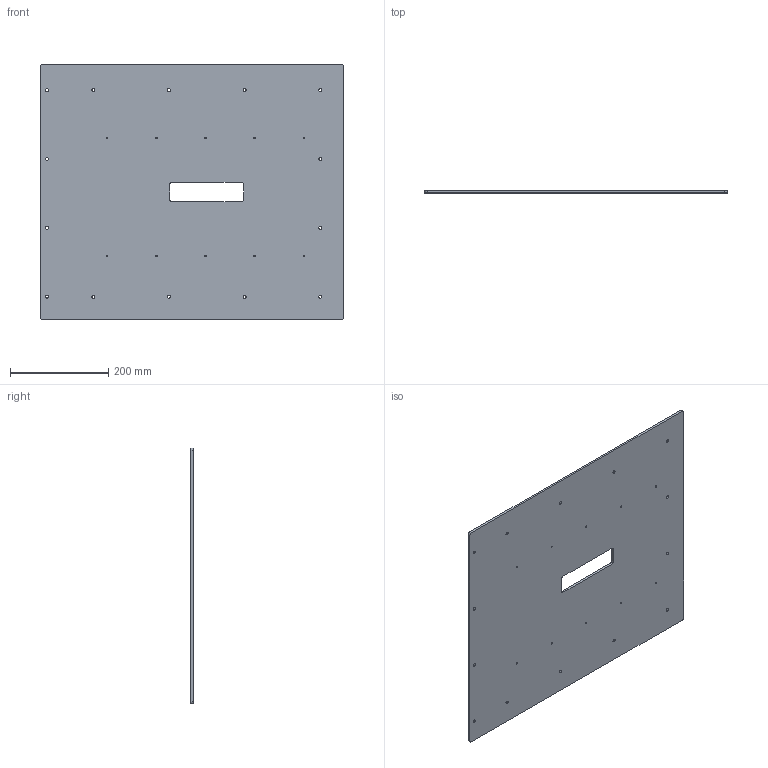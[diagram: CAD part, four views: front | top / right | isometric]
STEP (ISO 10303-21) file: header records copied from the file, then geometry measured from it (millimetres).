
FILE_DESCRIPTION(/* description */ (''),/* implementation_level */ '2;1');
FILE_NAME(/* name */ 'Electric Panel_Side Module.step',/* time_stamp */ '2026-05-13T17:27:39-07:00',/* author */ (''),/* organization */ (''),/* preprocessor_version */ 'ST-DEVELOPER v20.1',/* originating_system */ 'Autodesk Translation Framework v15.8.0.0',/* authorisation */ '');
FILE_SCHEMA (('AUTOMOTIVE_DESIGN { 1 0 10303 214 3 1 1 }'));
Length unit declared in the file: millimetre
Products named in the file (1): Electric Panel_Side Module
Bounding box: 615 x 4.76 x 520 mm (x, y, z)
Volume: 1492172 mm3; surface area: 640928.1 mm2
Topology: 1 solids, 1 shells, 42 faces, 120 edges, 80 vertices
Faces by surface type: cylinder 32, plane 10
Full cylindrical faces by diameter (mm): 3.332 x10, 6 x14
Entity records: 1541 total; most frequent: DIRECTION 270, CARTESIAN_POINT 243, ORIENTED_EDGE 240, EDGE_CURVE 120, AXIS2_PLACEMENT_3D 107, EDGE_LOOP 92, VERTEX_POINT 80, CIRCLE 64
